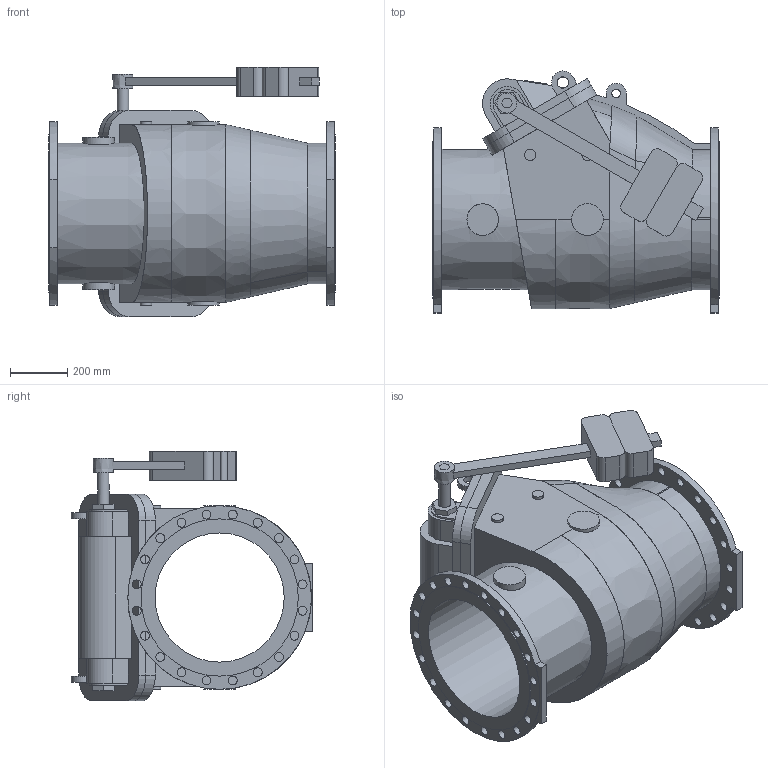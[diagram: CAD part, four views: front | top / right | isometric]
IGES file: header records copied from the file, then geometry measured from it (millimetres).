
Start section: SolidWorks IGES file using analytic representation for surfaces
Global section: file name: \\avksan2\techshare\PBM outline export from Enovia\O_41_36_DN450_X1XXX_AA0.igs; native system: SolidWorks 2012; preprocessor: SolidWorks 2012; author: pbm; date: 180816.103808; units: millimetre
Bounding box: 1000 x 842.73 x 870 mm (x, y, z)
Surface area: 5036704.1 mm2 (no closed solid volume)
Topology: 0 solids, 0 shells, 298 faces, 1630 edges, 1518 vertices
Faces by surface type: bspline 204, revolution 94
